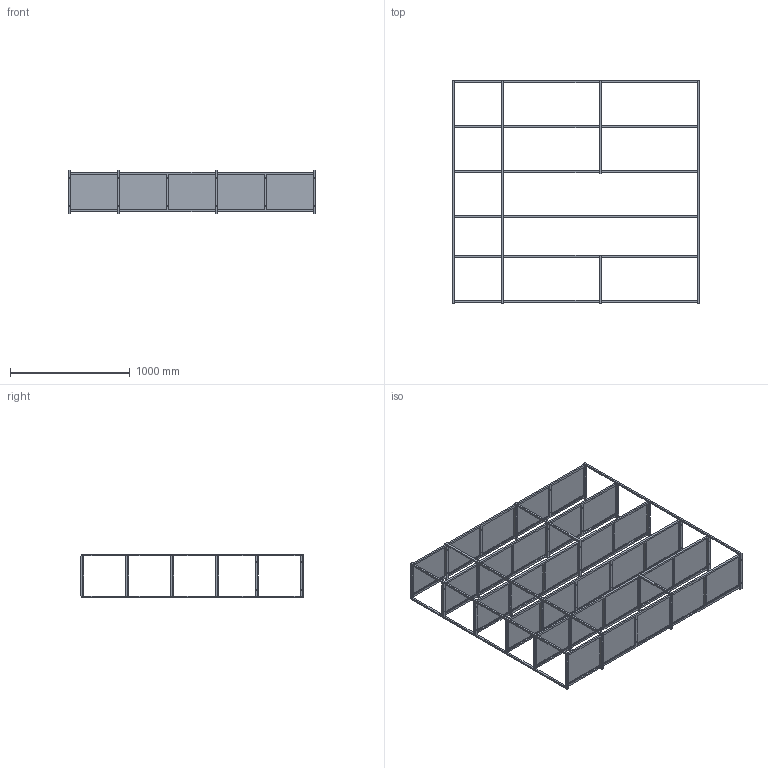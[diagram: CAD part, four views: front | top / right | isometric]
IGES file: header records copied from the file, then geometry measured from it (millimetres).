
Start section: SolidWorks IGES file using analytic representation for surfaces
Global section: file name: C:\Users\hcaixa\Documents\Gabinete Tecnico\72_produtos cliente\Timsteel\Mesas\Mesas Escritorio Operativas\Sistema Level Timsteel\AREIA-STUDIO FURNITURE CONCEPT\IGS\MODULO BASE 2000 H1800.IGS; native system: SolidWorks 2014; preprocessor: SolidWorks 2014; author: hcaixa; date: 190702.175248; units: millimetre
Bounding box: 2066 x 1862.8 x 367 mm (x, y, z)
Surface area: 11261919.3 mm2 (no closed solid volume)
Topology: 0 solids, 0 shells, 1846 faces, 25920 edges, 25920 vertices
Faces by surface type: bspline 1010, revolution 836
